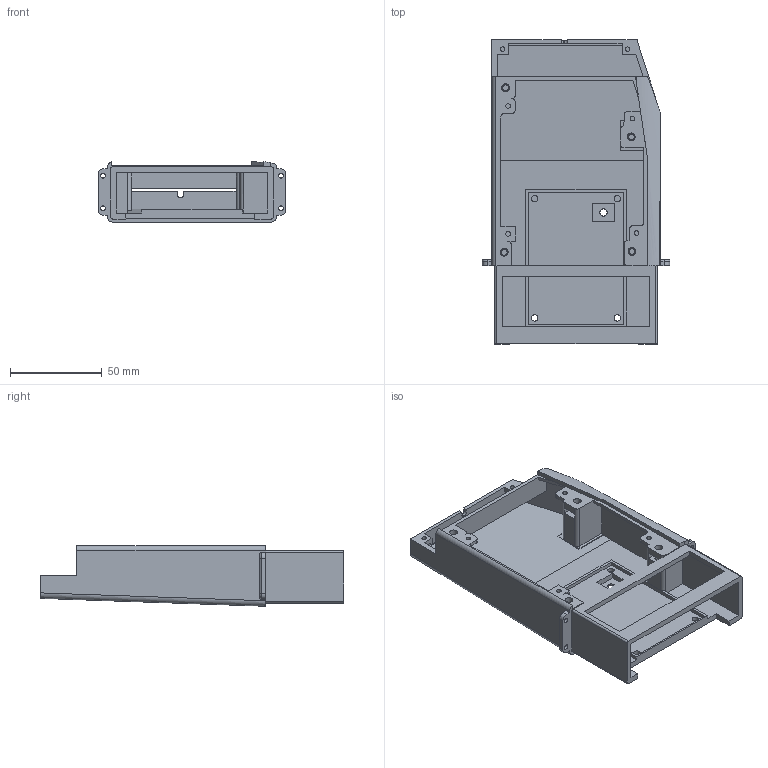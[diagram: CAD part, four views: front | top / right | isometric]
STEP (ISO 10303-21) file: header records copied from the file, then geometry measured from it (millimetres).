
FILE_DESCRIPTION(/* description */ (''),/* implementation_level */ '2;1');
FILE_NAME(/* name */ 'DED body.step',/* time_stamp */ '2024-10-31T18:12:17+02:00',/* author */ (''),/* organization */ (''),/* preprocessor_version */ 'ST-DEVELOPER v20',/* originating_system */ 'Autodesk Translation Framework v13.20.0.188',/* authorisation */ '');
FILE_SCHEMA (('AUTOMOTIVE_DESIGN { 1 0 10303 214 3 1 1 }'));
Length unit declared in the file: millimetre
Products named in the file (1): DED
Bounding box: 102.2 x 165.7 x 33 mm (x, y, z)
Volume: 97302.8 mm3; surface area: 61809 mm2
Topology: 1 solids, 1 shells, 284 faces, 761 edges, 494 vertices
Faces by surface type: plane 190, cylinder 74, torus 12, cone 8
Full cylindrical faces by diameter (mm): 2.5 x6, 2.6 x4, 3 x4, 3.2 x4, 3.5 x4, 3.908 x4, 4 x1, 4.2 x8, 7.5 x4
Entity records: 9004 total; most frequent: CARTESIAN_POINT 1664, ORIENTED_EDGE 1522, DIRECTION 1500, EDGE_CURVE 761, LINE 556, VECTOR 556, VERTEX_POINT 494, AXIS2_PLACEMENT_3D 472
